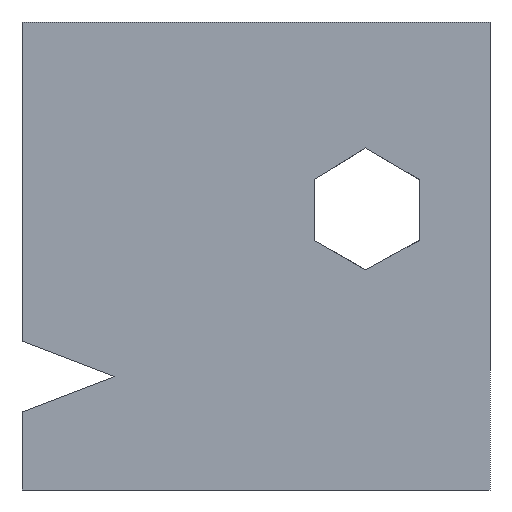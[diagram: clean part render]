
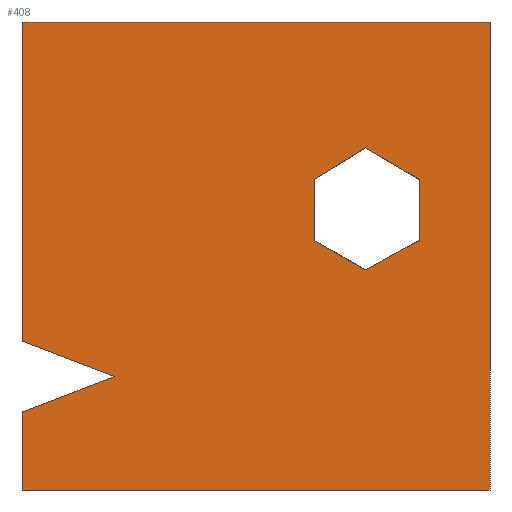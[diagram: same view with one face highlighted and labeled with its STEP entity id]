
A CAD part, left-side view. The second image highlights one B-rep face of the part: STEP entity #408.
In plain terms, the highlighted planar face has unit normal (-1, 0, 0).
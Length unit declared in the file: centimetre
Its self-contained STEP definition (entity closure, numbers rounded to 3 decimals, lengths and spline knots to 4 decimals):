
#2 = VECTOR ( 'NONE', #458, 100. ) ;
#3 = LINE ( 'NONE', #642, #533 ) ;
#5 = ORIENTED_EDGE ( 'NONE', *, *, #1141, .F. ) ;
#7 = DIRECTION ( 'NONE',  ( 0., 0., -1. ) ) ;
#64 = VERTEX_POINT ( 'NONE', #770 ) ;
#77 = FACE_OUTER_BOUND ( 'NONE', #904, .T. ) ;
#97 = CARTESIAN_POINT ( 'NONE',  ( 0., 0., 1000. ) ) ;
#98 = VECTOR ( 'NONE', #922, 100. ) ;
#99 = PLANE ( 'NONE',  #413 ) ;
#113 = VERTEX_POINT ( 'NONE', #247 ) ;
#148 = EDGE_CURVE ( 'NONE', #924, #879, #949, .T. ) ;
#151 = ORIENTED_EDGE ( 'NONE', *, *, #946, .T. ) ;
#156 = EDGE_CURVE ( 'NONE', #1095, #1033, #676, .T. ) ;
#160 = DIRECTION ( 'NONE',  ( 0., 0., 1. ) ) ;
#179 = LINE ( 'NONE', #97, #2 ) ;
#181 = LINE ( 'NONE', #997, #1030 ) ;
#200 = EDGE_CURVE ( 'NONE', #828, #1117, #309, .T. ) ;
#220 = DIRECTION ( 'NONE',  ( 0., -0.85, 0.526 ) ) ;
#233 = CARTESIAN_POINT ( 'NONE',  ( 0., 374.7997, 533.1367 ) ) ;
#247 = CARTESIAN_POINT ( 'NONE',  ( 0., 1000., 1000. ) ) ;
#273 = LINE ( 'NONE', #637, #473 ) ;
#276 = CARTESIAN_POINT ( 'NONE',  ( 0., 265.7394, 470.1707 ) ) ;
#282 = CARTESIAN_POINT ( 'NONE',  ( 0., 1000., 1000. ) ) ;
#309 = LINE ( 'NONE', #418, #802 ) ;
#314 = CARTESIAN_POINT ( 'NONE',  ( 0., 1000., 166.6891 ) ) ;
#315 = CARTESIAN_POINT ( 'NONE',  ( 0., 151.4556, 533.1367 ) ) ;
#337 = LINE ( 'NONE', #872, #920 ) ;
#351 = ORIENTED_EDGE ( 'NONE', *, *, #148, .F. ) ;
#382 = VERTEX_POINT ( 'NONE', #1104 ) ;
#408 = ADVANCED_FACE ( 'NONE', ( #555, #77 ), #99, .F. ) ;
#413 = AXIS2_PLACEMENT_3D ( 'NONE', #464, #1180, #7 ) ;
#418 = CARTESIAN_POINT ( 'NONE',  ( 0., 374.7997, 663.5924 ) ) ;
#423 = EDGE_CURVE ( 'NONE', #113, #811, #916, .T. ) ;
#433 = CARTESIAN_POINT ( 'NONE',  ( 0., 801.4055, 242.3013 ) ) ;
#453 = EDGE_CURVE ( 'NONE', #879, #811, #181, .T. ) ;
#458 = DIRECTION ( 'NONE',  ( 0., 0., -1. ) ) ;
#464 = CARTESIAN_POINT ( 'NONE',  ( 0., 1000., 1000. ) ) ;
#473 = VECTOR ( 'NONE', #822, 100. ) ;
#483 = CARTESIAN_POINT ( 'NONE',  ( 0., 374.7997, 663.5924 ) ) ;
#496 = EDGE_CURVE ( 'NONE', #1117, #896, #273, .T. ) ;
#497 = CARTESIAN_POINT ( 'NONE',  ( 0., 1000., 0. ) ) ;
#502 = EDGE_CURVE ( 'NONE', #896, #800, #3, .T. ) ;
#527 = EDGE_LOOP ( 'NONE', ( #597, #935, #151, #808, #755, #709 ) ) ;
#533 = VECTOR ( 'NONE', #769, 100. ) ;
#554 = LINE ( 'NONE', #647, #925 ) ;
#555 = FACE_BOUND ( 'NONE', #527, .T. ) ;
#566 = ORIENTED_EDGE ( 'NONE', *, *, #1105, .T. ) ;
#569 = VECTOR ( 'NONE', #1039, 100. ) ;
#597 = ORIENTED_EDGE ( 'NONE', *, *, #897, .T. ) ;
#611 = ORIENTED_EDGE ( 'NONE', *, *, #423, .T. ) ;
#619 = CARTESIAN_POINT ( 'NONE',  ( 0., 151.4556, 663.5924 ) ) ;
#637 = CARTESIAN_POINT ( 'NONE',  ( 0., 265.7394, 731.0822 ) ) ;
#638 = ORIENTED_EDGE ( 'NONE', *, *, #845, .T. ) ;
#642 = CARTESIAN_POINT ( 'NONE',  ( 0., 151.4556, 663.5924 ) ) ;
#647 = CARTESIAN_POINT ( 'NONE',  ( 0., 1000., 1000. ) ) ;
#676 = LINE ( 'NONE', #881, #870 ) ;
#678 = VECTOR ( 'NONE', #1056, 100. ) ;
#699 = DIRECTION ( 'NONE',  ( 0., 0.876, -0.483 ) ) ;
#709 = ORIENTED_EDGE ( 'NONE', *, *, #502, .T. ) ;
#713 = CARTESIAN_POINT ( 'NONE',  ( 0., 1000., 166.6891 ) ) ;
#728 = VECTOR ( 'NONE', #160, 100. ) ;
#730 = CARTESIAN_POINT ( 'NONE',  ( 0., 374.7997, 533.1367 ) ) ;
#733 = DIRECTION ( 'NONE',  ( 0., 0.935, 0.356 ) ) ;
#749 = CARTESIAN_POINT ( 'NONE',  ( 0., 1000., 1000. ) ) ;
#755 = ORIENTED_EDGE ( 'NONE', *, *, #496, .T. ) ;
#766 = DIRECTION ( 'NONE',  ( 0., 0.866, 0.5 ) ) ;
#769 = DIRECTION ( 'NONE',  ( 0., 0., -1. ) ) ;
#770 = CARTESIAN_POINT ( 'NONE',  ( 0., 1000., 0. ) ) ;
#799 = LINE ( 'NONE', #233, #728 ) ;
#800 = VERTEX_POINT ( 'NONE', #315 ) ;
#802 = VECTOR ( 'NONE', #220, 100. ) ;
#808 = ORIENTED_EDGE ( 'NONE', *, *, #200, .T. ) ;
#811 = VERTEX_POINT ( 'NONE', #861 ) ;
#822 = DIRECTION ( 'NONE',  ( 0., -0.861, -0.508 ) ) ;
#828 = VERTEX_POINT ( 'NONE', #483 ) ;
#845 = EDGE_CURVE ( 'NONE', #64, #382, #958, .T. ) ;
#846 = ORIENTED_EDGE ( 'NONE', *, *, #453, .F. ) ;
#861 = CARTESIAN_POINT ( 'NONE',  ( 0., 1000., 317.9135 ) ) ;
#870 = VECTOR ( 'NONE', #766, 100. ) ;
#872 = CARTESIAN_POINT ( 'NONE',  ( 0., 151.4556, 533.1367 ) ) ;
#879 = VERTEX_POINT ( 'NONE', #433 ) ;
#881 = CARTESIAN_POINT ( 'NONE',  ( 0., 265.7394, 470.1707 ) ) ;
#896 = VERTEX_POINT ( 'NONE', #619 ) ;
#897 = EDGE_CURVE ( 'NONE', #800, #1095, #337, .T. ) ;
#904 = EDGE_LOOP ( 'NONE', ( #611, #846, #351, #566, #638, #1075, #5 ) ) ;
#916 = LINE ( 'NONE', #282, #1087 ) ;
#920 = VECTOR ( 'NONE', #699, 100. ) ;
#922 = DIRECTION ( 'NONE',  ( 0., -1., 0. ) ) ;
#924 = VERTEX_POINT ( 'NONE', #713 ) ;
#925 = VECTOR ( 'NONE', #1097, 100. ) ;
#935 = ORIENTED_EDGE ( 'NONE', *, *, #156, .T. ) ;
#946 = EDGE_CURVE ( 'NONE', #1033, #828, #799, .T. ) ;
#949 = LINE ( 'NONE', #314, #678 ) ;
#958 = LINE ( 'NONE', #497, #569 ) ;
#991 = CARTESIAN_POINT ( 'NONE',  ( 0., 0., 1000. ) ) ;
#997 = CARTESIAN_POINT ( 'NONE',  ( 0., 801.4055, 242.3013 ) ) ;
#998 = VERTEX_POINT ( 'NONE', #991 ) ;
#1024 = LINE ( 'NONE', #749, #98 ) ;
#1030 = VECTOR ( 'NONE', #733, 100. ) ;
#1033 = VERTEX_POINT ( 'NONE', #730 ) ;
#1039 = DIRECTION ( 'NONE',  ( 0., -1., 0. ) ) ;
#1056 = DIRECTION ( 'NONE',  ( 0., -0.935, 0.356 ) ) ;
#1075 = ORIENTED_EDGE ( 'NONE', *, *, #1177, .F. ) ;
#1087 = VECTOR ( 'NONE', #1093, 100. ) ;
#1093 = DIRECTION ( 'NONE',  ( 0., 0., -1. ) ) ;
#1095 = VERTEX_POINT ( 'NONE', #276 ) ;
#1097 = DIRECTION ( 'NONE',  ( 0., 0., -1. ) ) ;
#1102 = CARTESIAN_POINT ( 'NONE',  ( 0., 265.7394, 731.0822 ) ) ;
#1104 = CARTESIAN_POINT ( 'NONE',  ( 0., 0., 0. ) ) ;
#1105 = EDGE_CURVE ( 'NONE', #924, #64, #554, .T. ) ;
#1117 = VERTEX_POINT ( 'NONE', #1102 ) ;
#1141 = EDGE_CURVE ( 'NONE', #113, #998, #1024, .T. ) ;
#1177 = EDGE_CURVE ( 'NONE', #998, #382, #179, .T. ) ;
#1180 = DIRECTION ( 'NONE',  ( 1., 0., 0. ) ) ;
